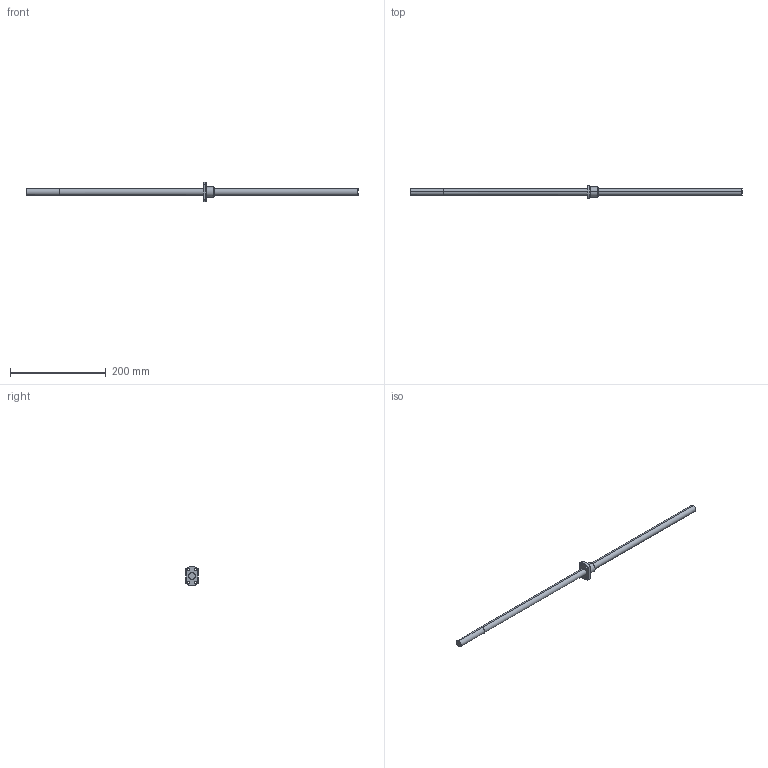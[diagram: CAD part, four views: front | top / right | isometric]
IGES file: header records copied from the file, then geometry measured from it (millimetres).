
Global section: file name: No Iges File Name specified; native system: AutoDesk Inventor R11.0; preprocessor: AutoDesk Inventor Iges Exporter R11.0; author: No Author specified; organization: No Organization specified; date: 20160202.105657; units: millimetre
Bounding box: 695 x 26 x 39.95 mm (x, y, z)
Surface area: 35516.1 mm2 (no closed solid volume)
Topology: 0 solids, 0 shells, 37 faces, 232 edges, 232 vertices
Faces by surface type: bspline 37
